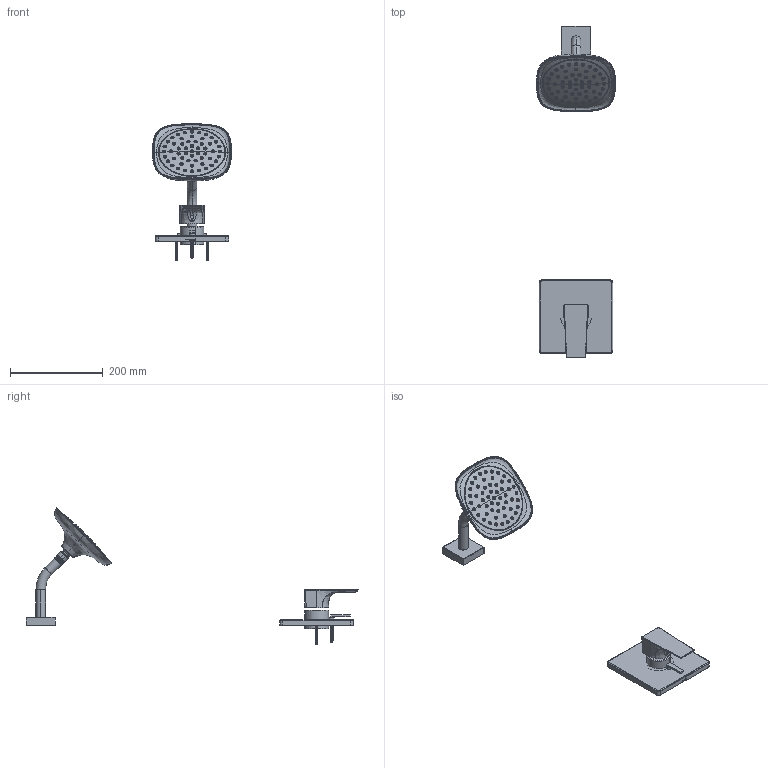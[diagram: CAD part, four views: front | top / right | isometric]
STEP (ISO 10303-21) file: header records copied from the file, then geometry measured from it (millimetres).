
FILE_DESCRIPTION (( 'STEP AP214' ), '1' );
FILE_NAME ('S4991TRM.STEP', '2025-01-02T03:31:15', ( '' ), ( '' ), 'SwSTEP 2.0', 'SolidWorks 2023', '' );
FILE_SCHEMA (( 'AUTOMOTIVE_DESIGN' ));
Length unit declared in the file: inch
Products named in the file (1): S4991TRM
Bounding box: 169.77 x 715.78 x 293.99 mm (x, y, z)
Surface area: 237594.8 mm2 (no closed solid volume)
Topology: 0 solids, 201 shells, 1220 faces, 3982 edges, 2925 vertices
Faces by surface type: cylinder 325, plane 322, cone 262, bspline 192, torus 115, sphere 4
Entity records: 113302 total; most frequent: CARTESIAN_POINT 81880, ORIENTED_EDGE 6071, DIRECTION 5821, EDGE_CURVE 3972, VERTEX_POINT 2925, AXIS2_PLACEMENT_3D 2249, EDGE_LOOP 1413, VECTOR 1323
